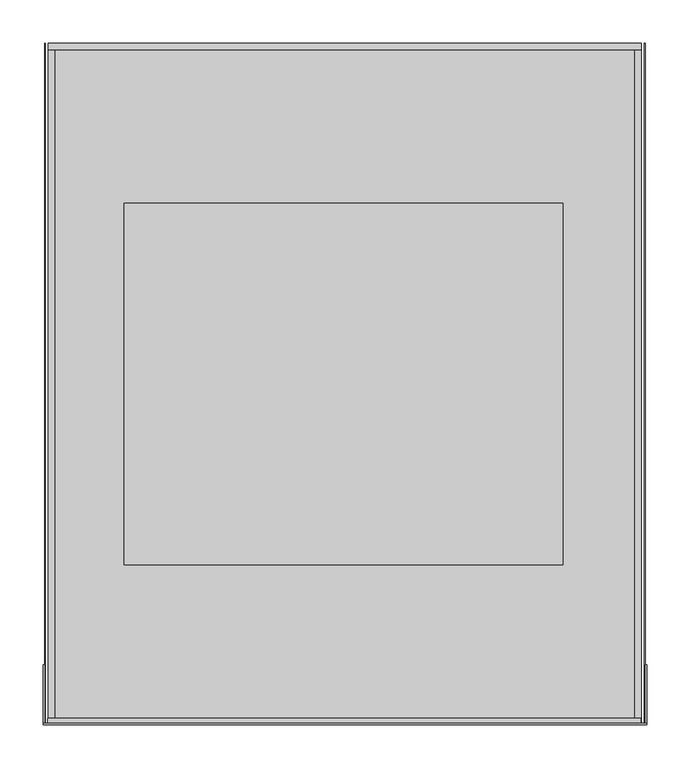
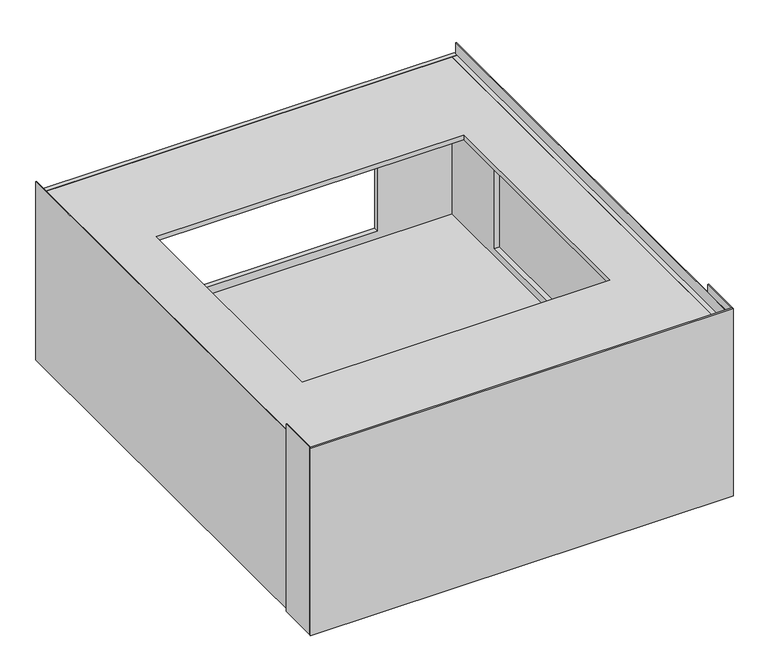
"""IFC4 building model written with IfcOpenShell, lengths in millimetres: proxy geometry, 11792150_EU_APWM039_IG : 59510039_EU_11792150_APWM039_IG."""

from ifc_helpers import new_model, si_unit, point, frame, frame_2d, origin, origin_with_axes, place, context, project, spatial, polyline, circle_curve, trimmed, segment, composite_curve, outline, extrude, source, transform, mapped, element, save


def specialty_equipment_2ddadef6(model_context):
    return source(origin(), model_context, "Body", "SweptSolid", [
        extrude(outline(composite_curve([segment(trimmed(circle_curve(frame_2d((-315.4232216, -760.6707196)), 10.0), [point((-325.4232216, -760.6707196))], [point((-305.4232216, -760.6707196))], False, "CARTESIAN"), True, "CONTINUOUS"), segment(trimmed(circle_curve(frame_2d((-315.4232216, -760.6707196)), 10.0), [point((-305.4232216, -760.6707196))], [point((-325.4232216, -760.6707196))], False, "CARTESIAN"), True, "CONTINUOUS")], self_intersect=False)), frame((0.0, 0.0, 7.9012554), z_axis=(0.0, 0.0, 1.0), x_axis=(1.0, 0.0, 0.0)), (0.0, 0.0, 1.0), 9.9486858),
        extrude(outline(composite_curve([segment(trimmed(circle_curve(frame_2d((-315.414248, -760.6707196)), 20.0), [point((-335.414248, -760.6707196))], [point((-295.414248, -760.6707196))], False, "CARTESIAN"), True, "CONTINUOUS"), segment(trimmed(circle_curve(frame_2d((-315.414248, -760.6707196)), 20.0), [point((-295.414248, -760.6707196))], [point((-335.414248, -760.6707196))], False, "CARTESIAN"), True, "CONTINUOUS")], self_intersect=False)), origin_with_axes(), (0.0, 0.0, 1.0), 7.9012554),
        extrude(outline(composite_curve([segment(trimmed(circle_curve(frame_2d((-315.65, -29.0)), 10.0), [point((-325.65, -29.0))], [point((-305.65, -29.0))], False, "CARTESIAN"), True, "CONTINUOUS"), segment(trimmed(circle_curve(frame_2d((-315.65, -29.0)), 10.0), [point((-305.65, -29.0))], [point((-325.65, -29.0))], False, "CARTESIAN"), True, "CONTINUOUS")], self_intersect=False)), frame((0.0, 0.0, 7.9012554), z_axis=(0.0, 0.0, 1.0), x_axis=(1.0, 0.0, 0.0)), (0.0, 0.0, 1.0), 9.9486858),
        extrude(outline(composite_curve([segment(trimmed(circle_curve(frame_2d((315.65, -28.756609)), 10.0), [point((325.65, -28.756609))], [point((305.65, -28.756609))], False, "CARTESIAN"), True, "CONTINUOUS"), segment(trimmed(circle_curve(frame_2d((315.65, -28.756609)), 10.0), [point((305.65, -28.756609))], [point((325.65, -28.756609))], False, "CARTESIAN"), True, "CONTINUOUS")], self_intersect=False)), frame((0.0, 0.0, 7.9012554), z_axis=(0.0, 0.0, 1.0), x_axis=(1.0, 0.0, 0.0)), (0.0, 0.0, 1.0), 9.9486858),
        extrude(outline(composite_curve([segment(trimmed(circle_curve(frame_2d((315.4232216, -760.6707196)), 10.0), [point((325.4232216, -760.6707196))], [point((305.4232216, -760.6707196))], False, "CARTESIAN"), True, "CONTINUOUS"), segment(trimmed(circle_curve(frame_2d((315.4232216, -760.6707196)), 10.0), [point((305.4232216, -760.6707196))], [point((325.4232216, -760.6707196))], False, "CARTESIAN"), True, "CONTINUOUS")], self_intersect=False)), frame((0.0, 0.0, 7.9012554), z_axis=(0.0, 0.0, 1.0), x_axis=(1.0, 0.0, 0.0)), (0.0, 0.0, 1.0), 9.9486858),
        extrude(outline(composite_curve([segment(trimmed(circle_curve(frame_2d((315.414248, -760.6707196)), 20.0), [point((335.414248, -760.6707196))], [point((295.414248, -760.6707196))], False, "CARTESIAN"), True, "CONTINUOUS"), segment(trimmed(circle_curve(frame_2d((315.414248, -760.6707196)), 20.0), [point((295.414248, -760.6707196))], [point((335.414248, -760.6707196))], False, "CARTESIAN"), True, "CONTINUOUS")], self_intersect=False)), origin_with_axes(), (0.0, 0.0, 1.0), 7.9012554),
        extrude(outline(composite_curve([segment(trimmed(circle_curve(frame_2d((315.65, -29.0243084)), 20.0), [point((335.65, -29.0243084))], [point((295.65, -29.0243084))], False, "CARTESIAN"), True, "CONTINUOUS"), segment(trimmed(circle_curve(frame_2d((315.65, -29.0243084)), 20.0), [point((295.65, -29.0243084))], [point((335.65, -29.0243084))], False, "CARTESIAN"), True, "CONTINUOUS")], self_intersect=False)), origin_with_axes(), (0.0, 0.0, 1.0), 7.9012554),
        extrude(outline(composite_curve([segment(trimmed(circle_curve(frame_2d((-315.65, -28.756609)), 20.0), [point((-335.65, -28.756609))], [point((-295.65, -28.756609))], False, "CARTESIAN"), True, "CONTINUOUS"), segment(trimmed(circle_curve(frame_2d((-315.65, -28.756609)), 20.0), [point((-295.65, -28.756609))], [point((-335.65, -28.756609))], False, "CARTESIAN"), True, "CONTINUOUS")], self_intersect=False)), origin_with_axes(), (0.0, 0.0, 1.0), 7.9012554),
        extrude(outline(polyline([(336.65, -8.0), (336.65, -783.7), (-336.65, -783.7), (-336.65, -8.0), (336.65, -8.0)])), frame((0.0, 0.0, 17.8499412), z_axis=(0.0, 0.0, 1.0), x_axis=(1.0, 0.0, 0.0)), (0.0, 0.0, 1.0), 6.3707886),
        extrude(outline(polyline([(300.0000515, -345.0), (17.8499412, -345.0), (17.8499412, 343.9970109), (300.0000515, 343.9970109), (300.0000515, -345.0)]), holes=[polyline([(255.0000529, -217.8283968), (255.0000529, 212.9108386), (37.8499412, 212.9108386), (37.8499412, -217.8283968), (255.0000529, -217.8283968)])]), frame((0.0, -789.7, 0.0), z_axis=(0.0, 1.0, 0.0), x_axis=(0.0, 0.0, 1.0)), (0.0, 0.0, 1.0), 6.0),
        extrude(outline(polyline([(300.0000515, -344.6928831), (17.8499412, -344.6928831), (17.8499412, 344.6928831), (300.0000515, 344.6928831), (300.0000515, -344.6928831)]), holes=[polyline([(255.0000529, -217.5212799), (255.0000529, 213.2179554), (37.8499412, 213.2179554), (37.8499412, -217.5212799), (255.0000529, -217.5212799)])]), frame((0.0, -7.7517808, 0.0), z_axis=(0.0, 1.0, 0.0), x_axis=(0.0, 0.0, 1.0)), (0.0, 0.0, 1.0), 7.7517808),
        extrude(outline(polyline([(336.65, -8.0), (336.65, -783.7), (-336.65, -783.7), (-336.65, -8.0), (336.65, -8.0)]), holes=[polyline([(-256.650057, -606.0), (253.349943, -606.0), (253.349943, -186.0), (-256.650057, -186.0), (-256.650057, -606.0)])]), frame((0.0, 0.0, 292.0934441), z_axis=(0.0, 0.0, 1.0), x_axis=(1.0, 0.0, 0.0)), (0.0, 0.0, 1.0), 7.9066074),
        extrude(outline(polyline([(-789.7, 300.0000515), (-7.7517808, 300.0000515), (-7.7517808, 17.8499412), (-789.7, 17.8499412), (-789.7, 300.0000515)]), holes=[polyline([(-661.7, 255.0000529), (-661.7, 37.8499412), (-130.0, 37.8499412), (-130.0, 255.0000529), (-661.7, 255.0000529)])]), frame((336.65, 0.0, 0.0), z_axis=(1.0, 0.0, 0.0), x_axis=(0.0, 1.0, 0.0)), (0.0, 0.0, 1.0), 8.0428831),
        extrude(outline(polyline([(-789.7, 300.0000515), (-7.7517808, 300.0000515), (-7.7517808, 17.8499412), (-789.7, 17.8499412), (-789.7, 300.0000515)]), holes=[polyline([(-661.7, 255.0), (-661.7, 38.0), (-130.0, 38.0), (-130.0, 255.0), (-661.7, 255.0)])]), frame((-344.6928831, 0.0, 0.0), z_axis=(1.0, 0.0, 0.0), x_axis=(0.0, 1.0, 0.0)), (0.0, 0.0, 1.0), 8.0428831),
        extrude(outline(polyline([(350.65, -789.7), (350.65, -791.7), (-350.65, -791.7), (-350.65, -789.7), (350.65, -789.7)])), origin_with_axes(), (0.0, 0.0, 1.0), 329.0),
        extrude(outline(polyline([(348.9787048, -789.7), (348.9787048, -721.7872741), (350.65, -721.7872741), (350.65, -789.7), (348.9787048, -789.7)])), origin_with_axes(), (0.0, 0.0, 1.0), 329.0),
        extrude(outline(polyline([(-348.9787048, -721.7872741), (-348.9787048, -789.7), (-350.65, -789.7), (-350.65, -721.7872741), (-348.9787048, -721.7872741)])), origin_with_axes(), (0.0, 0.0, 1.0), 329.0),
        extrude(outline(polyline([(348.9787048, -789.7), (347.9787048, -789.7), (347.9787048, 0.0), (348.9787048, 0.0), (348.9787048, -789.7)])), frame((0.0, 0.0, 3.0000568), z_axis=(0.0, 0.0, 1.0), x_axis=(1.0, 0.0, 0.0)), (0.0, 0.0, 1.0), 312.9999432),
        extrude(outline(polyline([(0.0, -1.0), (0.0, 0.0), (789.7, 0.0), (789.7, -1.0), (0.0, -1.0)])), frame((-348.9787048, -789.7, 3.0000568), z_axis=(-2.2841728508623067e-12, 0.0, 1.0), x_axis=(0.0, 1.0, 0.0)), (0.0, 0.0, 1.0), 312.9999432),
    ])


if __name__ == "__main__":
    model = new_model("IFC4")
    model_context = context("Model", 3, world=origin())
    ifc_project = project(units=[si_unit("LENGTHUNIT", "METRE", prefix="MILLI")], contexts=[model_context])
    site = spatial("IfcSite", under=ifc_project)
    building = spatial("IfcBuilding", under=site)
    placement = place(None, origin())
    specialty_equipment_shape = specialty_equipment_2ddadef6(model_context)
    element("IfcBuildingElementProxy", 1, Name="11792150_EU_APWM039_IG : 59510039_EU_11792150_APWM039_IG", ObjectType="11792150_EU_APWM039_IG : 59510039_EU_11792150_APWM039_IG", at=placement, inside=building, context=model_context, shape_type="MappedRepresentation", body=[
        mapped(specialty_equipment_shape, transform((0.0, 0.0, 0.0), x_axis=(1.0, 0.0, 0.0), y_axis=(0.0, 1.0, 0.0), z_axis=(0.0, 0.0, 1.0))),
    ])
    save(model, "model.ifc")
